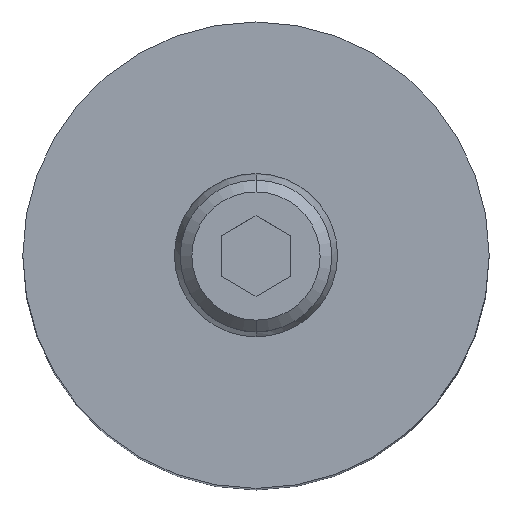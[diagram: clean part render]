
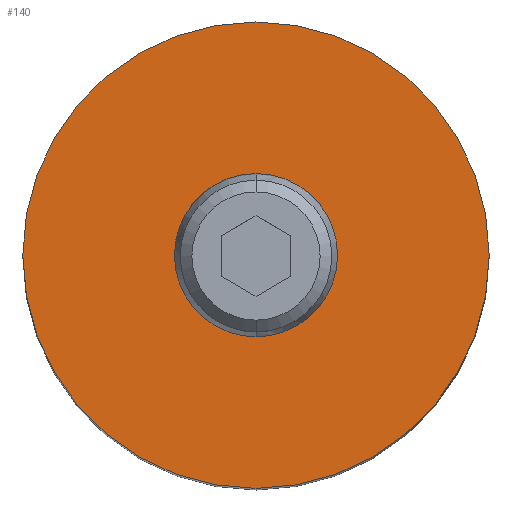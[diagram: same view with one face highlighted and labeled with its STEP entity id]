
A CAD part, top view. The second image highlights one B-rep face of the part: STEP entity #140.
In plain terms, the highlighted planar face has unit normal (0, 0, 1).
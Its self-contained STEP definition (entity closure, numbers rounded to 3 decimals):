
#110=PLANE('',#653);
#125=FACE_BOUND('',#221,.T.);
#126=FACE_BOUND('',#222,.T.);
#140=ADVANCED_FACE('',(#125,#126),#110,.T.);
#221=EDGE_LOOP('',(#311,#312));
#222=EDGE_LOOP('',(#313,#314));
#258=CIRCLE('',#641,20.);
#259=CIRCLE('',#643,20.);
#263=CIRCLE('',#649,7.);
#264=CIRCLE('',#651,7.);
#311=ORIENTED_EDGE('',*,*,#488,.F.);
#312=ORIENTED_EDGE('',*,*,#489,.F.);
#313=ORIENTED_EDGE('',*,*,#496,.T.);
#314=ORIENTED_EDGE('',*,*,#494,.T.);
#439=VERTEX_POINT('',#894);
#442=VERTEX_POINT('',#899);
#445=VERTEX_POINT('',#911);
#446=VERTEX_POINT('',#913);
#488=EDGE_CURVE('',#442,#439,#258,.T.);
#489=EDGE_CURVE('',#439,#442,#259,.T.);
#494=EDGE_CURVE('',#446,#445,#263,.T.);
#496=EDGE_CURVE('',#445,#446,#264,.T.);
#641=AXIS2_PLACEMENT_3D('',#900,#716,#717);
#643=AXIS2_PLACEMENT_3D('',#902,#720,#721);
#649=AXIS2_PLACEMENT_3D('',#912,#733,#734);
#651=AXIS2_PLACEMENT_3D('',#916,#738,#739);
#653=AXIS2_PLACEMENT_3D('',#918,#742,#743);
#716=DIRECTION('',(0.,0.,-1.));
#717=DIRECTION('',(1.,0.,0.));
#720=DIRECTION('',(0.,0.,-1.));
#721=DIRECTION('',(-1.,0.,0.));
#733=DIRECTION('',(0.,0.,-1.));
#734=DIRECTION('',(1.,0.,0.));
#738=DIRECTION('',(0.,0.,-1.));
#739=DIRECTION('',(-1.,0.,0.));
#742=DIRECTION('',(0.,0.,1.));
#743=DIRECTION('',(-1.,0.,0.));
#894=CARTESIAN_POINT('',(0.,20.,80.));
#899=CARTESIAN_POINT('',(0.,-20.,80.));
#900=CARTESIAN_POINT('',(0.,0.,80.));
#902=CARTESIAN_POINT('',(0.,0.,80.));
#911=CARTESIAN_POINT('',(0.,7.,80.));
#912=CARTESIAN_POINT('',(0.,0.,80.));
#913=CARTESIAN_POINT('',(0.,-7.,80.));
#916=CARTESIAN_POINT('',(0.,0.,80.));
#918=CARTESIAN_POINT('',(0.,0.,80.));
